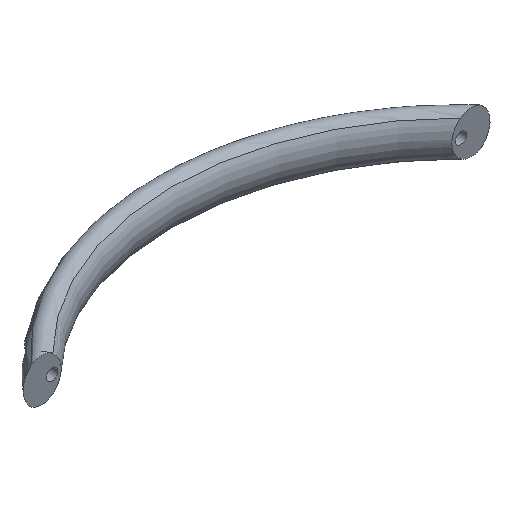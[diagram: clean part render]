
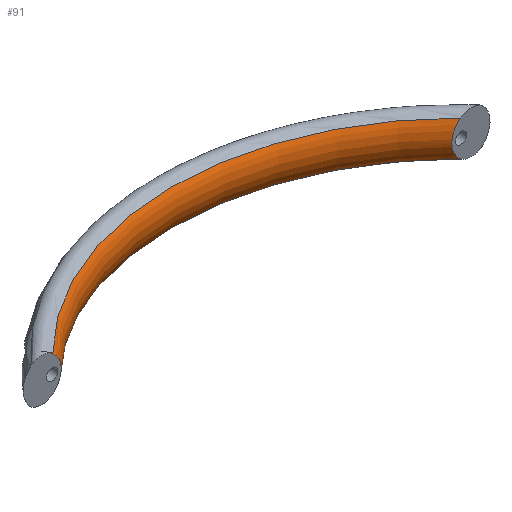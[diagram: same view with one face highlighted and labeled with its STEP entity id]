
A CAD part, isometric view. The second image highlights one B-rep face of the part: STEP entity #91.
In plain terms, the highlighted toroidal (fillet/blend) face has major radius 146.163 mm and minor radius 13.914 mm.
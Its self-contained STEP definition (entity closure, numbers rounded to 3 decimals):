
#91 = ADVANCED_FACE( '', ( #137 ), #138, .T. );
#137 = FACE_OUTER_BOUND( '', #187, .T. );
#138 = TOROIDAL_SURFACE( '', #188, 146.163, 13.914 );
#187 = EDGE_LOOP( '', ( #313, #314, #315, #316 ) );
#188 = AXIS2_PLACEMENT_3D( '', #317, #318, #319 );
#313 = ORIENTED_EDGE( '', *, *, #380, .F. );
#314 = ORIENTED_EDGE( '', *, *, #376, .T. );
#315 = ORIENTED_EDGE( '', *, *, #381, .T. );
#316 = ORIENTED_EDGE( '', *, *, #373, .T. );
#317 = CARTESIAN_POINT( '', ( 0., -95.249, 0. ) );
#318 = DIRECTION( '', ( 0., 0., -1. ) );
#319 = DIRECTION( '', ( -1., 0., 0. ) );
#373 = EDGE_CURVE( '', #440, #438, #441, .T. );
#376 = EDGE_CURVE( '', #445, #443, #446, .T. );
#380 = EDGE_CURVE( '', #445, #438, #452, .T. );
#381 = EDGE_CURVE( '', #443, #440, #453, .T. );
#438 = VERTEX_POINT( '', #725 );
#440 = VERTEX_POINT( '', #746 );
#441 = B_SPLINE_CURVE_WITH_KNOTS( '', 3, ( #747, #748, #749, #750, #751, #752, #753, #754, #755, #756, #757, #758, #759, #760, #761, #762, #763, #764, #765, #766, #767, #768, #769, #770, #771, #772, #773, #774 ), .UNSPECIFIED., .F., .F., ( 4, 2, 2, 2, 2, 2, 2, 2, 2, 2, 2, 2, 2, 4 ), ( 0.095, 0.096, 0.098, 0.1, 0.101, 0.102, 0.105, 0.106, 0.107, 0.108, 0.109, 0.112, 0.113, 0.114 ), .UNSPECIFIED. );
#443 = VERTEX_POINT( '', #793 );
#445 = VERTEX_POINT( '', #816 );
#446 = B_SPLINE_CURVE_WITH_KNOTS( '', 3, ( #817, #818, #819, #820, #821, #822, #823, #824, #825, #826, #827, #828, #829, #830, #831, #832, #833, #834, #835, #836, #837, #838, #839, #840, #841, #842 ), .UNSPECIFIED., .F., .F., ( 4, 2, 2, 2, 2, 2, 2, 2, 2, 2, 2, 2, 4 ), ( 0.045, 0.047, 0.048, 0.05, 0.051, 0.052, 0.054, 0.055, 0.057, 0.058, 0.059, 0.061, 0.064 ), .UNSPECIFIED. );
#452 = CIRCLE( '', #869, 135.011 );
#453 = CIRCLE( '', #870, 135.011 );
#725 = CARTESIAN_POINT( '', ( 95.685, 0., 8.321 ) );
#746 = CARTESIAN_POINT( '', ( 95.685, 0., -8.321 ) );
#747 = CARTESIAN_POINT( '', ( 95.685, 0., -8.321 ) );
#748 = CARTESIAN_POINT( '', ( 95.398, 0., -8.049 ) );
#749 = CARTESIAN_POINT( '', ( 95.12, 0., -7.764 ) );
#750 = CARTESIAN_POINT( '', ( 94.59, 0., -7.176 ) );
#751 = CARTESIAN_POINT( '', ( 94.338, 0., -6.873 ) );
#752 = CARTESIAN_POINT( '', ( 93.624, 0., -5.935 ) );
#753 = CARTESIAN_POINT( '', ( 93.203, 0., -5.27 ) );
#754 = CARTESIAN_POINT( '', ( 92.672, 0., -4.2 ) );
#755 = CARTESIAN_POINT( '', ( 92.514, 0., -3.835 ) );
#756 = CARTESIAN_POINT( '', ( 92.239, 0., -3.09 ) );
#757 = CARTESIAN_POINT( '', ( 92.121, 0., -2.708 ) );
#758 = CARTESIAN_POINT( '', ( 91.841, 0., -1.557 ) );
#759 = CARTESIAN_POINT( '', ( 91.746, 0., -0.78 ) );
#760 = CARTESIAN_POINT( '', ( 91.747, 0., 0.404 ) );
#761 = CARTESIAN_POINT( '', ( 91.772, 0., 0.803 ) );
#762 = CARTESIAN_POINT( '', ( 91.869, 0., 1.586 ) );
#763 = CARTESIAN_POINT( '', ( 91.941, 0., 1.971 ) );
#764 = CARTESIAN_POINT( '', ( 92.129, 0., 2.733 ) );
#765 = CARTESIAN_POINT( '', ( 92.245, 0., 3.108 ) );
#766 = CARTESIAN_POINT( '', ( 92.52, 0., 3.849 ) );
#767 = CARTESIAN_POINT( '', ( 92.679, 0., 4.215 ) );
#768 = CARTESIAN_POINT( '', ( 93.206, 0., 5.274 ) );
#769 = CARTESIAN_POINT( '', ( 93.626, 0., 5.939 ) );
#770 = CARTESIAN_POINT( '', ( 94.346, 0., 6.883 ) );
#771 = CARTESIAN_POINT( '', ( 94.6, 0., 7.188 ) );
#772 = CARTESIAN_POINT( '', ( 95.127, 0., 7.772 ) );
#773 = CARTESIAN_POINT( '', ( 95.401, 0., 8.052 ) );
#774 = CARTESIAN_POINT( '', ( 95.685, 0., 8.321 ) );
#793 = CARTESIAN_POINT( '', ( -95.685, 0., -8.321 ) );
#816 = CARTESIAN_POINT( '', ( -95.685, 0., 8.321 ) );
#817 = CARTESIAN_POINT( '', ( -95.685, 0., 8.321 ) );
#818 = CARTESIAN_POINT( '', ( -95.116, 0., 7.78 ) );
#819 = CARTESIAN_POINT( '', ( -94.587, 0., 7.199 ) );
#820 = CARTESIAN_POINT( '', ( -93.867, 0., 6.254 ) );
#821 = CARTESIAN_POINT( '', ( -93.639, 0., 5.927 ) );
#822 = CARTESIAN_POINT( '', ( -93.22, 0., 5.258 ) );
#823 = CARTESIAN_POINT( '', ( -93.027, 0., 4.915 ) );
#824 = CARTESIAN_POINT( '', ( -92.677, 0., 4.211 ) );
#825 = CARTESIAN_POINT( '', ( -92.52, 0., 3.85 ) );
#826 = CARTESIAN_POINT( '', ( -92.245, 0., 3.109 ) );
#827 = CARTESIAN_POINT( '', ( -92.127, 0., 2.727 ) );
#828 = CARTESIAN_POINT( '', ( -91.844, 0., 1.575 ) );
#829 = CARTESIAN_POINT( '', ( -91.747, 0., 0.798 ) );
#830 = CARTESIAN_POINT( '', ( -91.746, 0., -0.382 ) );
#831 = CARTESIAN_POINT( '', ( -91.77, 0., -0.78 ) );
#832 = CARTESIAN_POINT( '', ( -91.866, 0., -1.569 ) );
#833 = CARTESIAN_POINT( '', ( -91.938, 0., -1.957 ) );
#834 = CARTESIAN_POINT( '', ( -92.126, 0., -2.722 ) );
#835 = CARTESIAN_POINT( '', ( -92.241, 0., -3.098 ) );
#836 = CARTESIAN_POINT( '', ( -92.516, 0., -3.84 ) );
#837 = CARTESIAN_POINT( '', ( -92.675, 0., -4.207 ) );
#838 = CARTESIAN_POINT( '', ( -93.204, 0., -5.27 ) );
#839 = CARTESIAN_POINT( '', ( -93.624, 0., -5.934 ) );
#840 = CARTESIAN_POINT( '', ( -94.576, 0., -7.186 ) );
#841 = CARTESIAN_POINT( '', ( -95.114, 0., -7.778 ) );
#842 = CARTESIAN_POINT( '', ( -95.685, 0., -8.321 ) );
#869 = AXIS2_PLACEMENT_3D( '', #927, #928, #929 );
#870 = AXIS2_PLACEMENT_3D( '', #930, #931, #932 );
#927 = CARTESIAN_POINT( '', ( 0., -95.249, 8.321 ) );
#928 = DIRECTION( '', ( 0., 0., -1. ) );
#929 = DIRECTION( '', ( -1., 0., 0. ) );
#930 = CARTESIAN_POINT( '', ( 0., -95.249, -8.321 ) );
#931 = DIRECTION( '', ( 0., 0., -1. ) );
#932 = DIRECTION( '', ( -1., 0., 0. ) );
